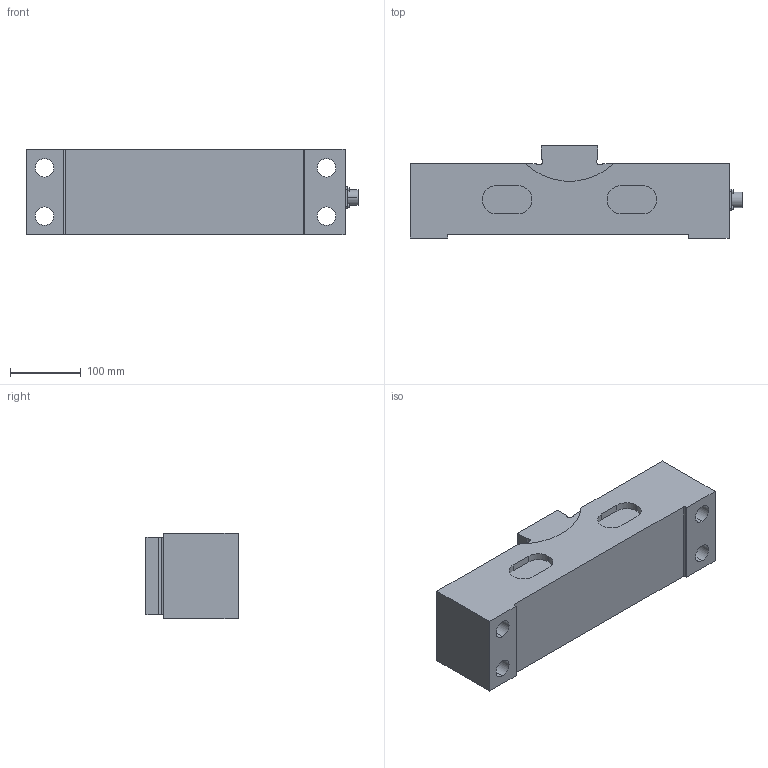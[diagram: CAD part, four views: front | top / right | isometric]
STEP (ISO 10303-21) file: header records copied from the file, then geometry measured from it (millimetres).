
FILE_DESCRIPTION (( 'STEP AP214' ), '1' );
FILE_NAME ('DSA-R 500 kN Load Cell.STEP', '2021-06-17T08:38:38', ( '' ), ( '' ), 'SwSTEP 2.0', 'SolidWorks 2021', '' );
FILE_SCHEMA (( 'AUTOMOTIVE_DESIGN' ));
Length unit declared in the file: millimetre
Products named in the file (4): DSA-R 500 kN; DSA-R 500 kN Load Cell; Apparatintag 14S-2 6 P, Amphenol ; Wiberger-din912_m3x12
Assembly tree (6 placements, depth 2):
  DSA-R 500 kN Load Cell
    DSA-R 500 kN
    Apparatintag 14S-2 6 P, Amphenol 
    Wiberger-din912_m3x12  x4
Bounding box: 468.3 x 130 x 120 mm (x, y, z)
Volume: 5139426.8 mm3; surface area: 309608 mm2
Topology: 6 solids, 6 shells, 324 faces, 691 edges, 389 vertices
Faces by surface type: cylinder 123, plane 115, cone 66, torus 12, bspline 8
Entity records: 7258 total; most frequent: DIRECTION 1259, CARTESIAN_POINT 1161, ORIENTED_EDGE 1034, EDGE_CURVE 517, AXIS2_PLACEMENT_3D 506, VERTEX_POINT 320, EDGE_LOOP 287, CIRCLE 262
